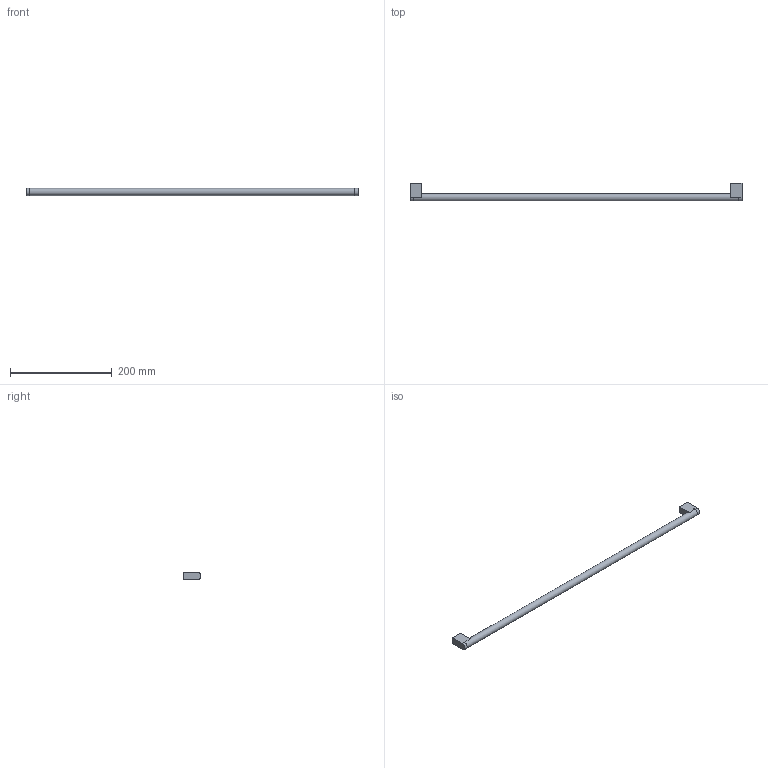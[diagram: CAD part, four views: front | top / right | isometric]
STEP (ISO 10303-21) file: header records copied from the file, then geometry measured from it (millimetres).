
FILE_DESCRIPTION( ( 'STEP AP214' ), ' ' );
FILE_NAME( 'C:/Users/bhog/Desktop/Handle/9070113/9070113.stp', '2018-11-20T10:21:29', ( '' ), ( '' ), ' ', 'PARTsolutions', ' ' );
FILE_SCHEMA( ( 'AUTOMOTIVE_DESIGN { 1 0 10303 214 1 1 1 1 }' ) );
Length unit declared in the file: millimetre
Products named in the file (1): _9070113
Bounding box: 652 x 35 x 14 mm (x, y, z)
Volume: 113885.4 mm3; surface area: 34031.5 mm2
Topology: 1 solids, 1 shells, 21 faces, 41 edges, 26 vertices
Faces by surface type: plane 14, cylinder 7
Full cylindrical faces by diameter (mm): 4 x2, 13.98 x1
Entity records: 706 total; most frequent: DIRECTION 96, CARTESIAN_POINT 86, ORIENTED_EDGE 76, EDGE_CURVE 38, AXIS2_PLACEMENT_3D 36, EDGE_LOOP 28, VERTEX_POINT 26, FACE_OUTER_BOUND 24
